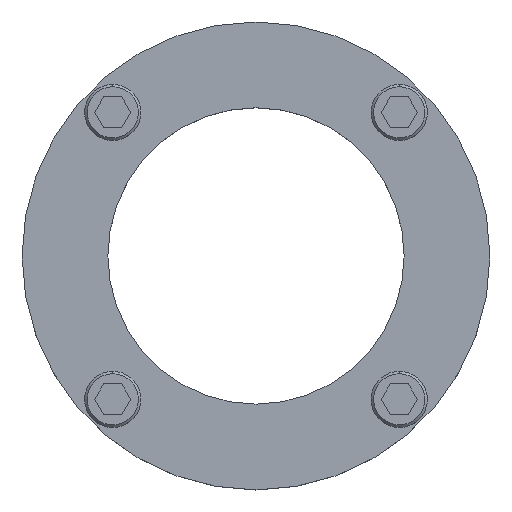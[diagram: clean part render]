
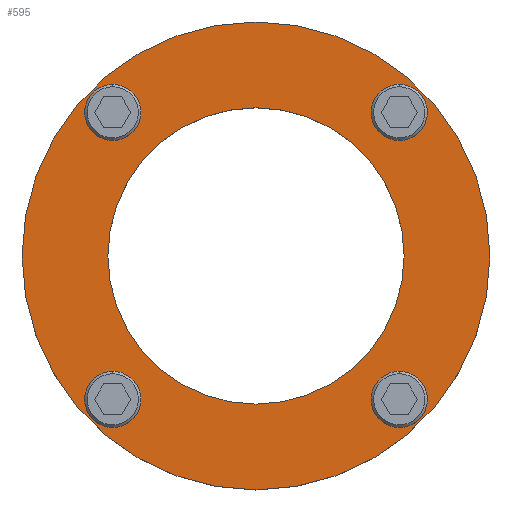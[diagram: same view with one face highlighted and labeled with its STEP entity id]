
A CAD part, top view. The second image highlights one B-rep face of the part: STEP entity #595.
In plain terms, the highlighted planar face has unit normal (0, 0, 1).
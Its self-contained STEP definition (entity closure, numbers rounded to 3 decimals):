
#595=ADVANCED_FACE('',(#779,#780,#781,#782,#783,#784),#725,.T.);
#725=PLANE('',#2192);
#779=FACE_BOUND('',#839,.T.);
#780=FACE_BOUND('',#840,.T.);
#781=FACE_BOUND('',#841,.T.);
#782=FACE_BOUND('',#842,.T.);
#783=FACE_BOUND('',#843,.T.);
#784=FACE_BOUND('',#844,.T.);
#839=EDGE_LOOP('',(#1007,#1008));
#840=EDGE_LOOP('',(#1009,#1010));
#841=EDGE_LOOP('',(#1011,#1012));
#842=EDGE_LOOP('',(#1013,#1014));
#843=EDGE_LOOP('',(#1015,#1016));
#844=EDGE_LOOP('',(#1017,#1018));
#1007=ORIENTED_EDGE('',*,*,#1759,.T.);
#1008=ORIENTED_EDGE('',*,*,#1760,.T.);
#1009=ORIENTED_EDGE('',*,*,#1761,.T.);
#1010=ORIENTED_EDGE('',*,*,#1762,.T.);
#1011=ORIENTED_EDGE('',*,*,#1763,.T.);
#1012=ORIENTED_EDGE('',*,*,#1764,.T.);
#1013=ORIENTED_EDGE('',*,*,#1765,.T.);
#1014=ORIENTED_EDGE('',*,*,#1766,.T.);
#1015=ORIENTED_EDGE('',*,*,#1767,.T.);
#1016=ORIENTED_EDGE('',*,*,#1768,.T.);
#1017=ORIENTED_EDGE('',*,*,#1769,.T.);
#1018=ORIENTED_EDGE('',*,*,#1770,.T.);
#1575=VERTEX_POINT('',#3130);
#1576=VERTEX_POINT('',#3131);
#1577=VERTEX_POINT('',#3134);
#1578=VERTEX_POINT('',#3135);
#1579=VERTEX_POINT('',#3138);
#1580=VERTEX_POINT('',#3139);
#1581=VERTEX_POINT('',#3142);
#1582=VERTEX_POINT('',#3143);
#1583=VERTEX_POINT('',#3146);
#1584=VERTEX_POINT('',#3147);
#1585=VERTEX_POINT('',#3150);
#1586=VERTEX_POINT('',#3151);
#1759=EDGE_CURVE('',#1575,#1576,#2043,.T.);
#1760=EDGE_CURVE('',#1576,#1575,#2044,.T.);
#1761=EDGE_CURVE('',#1577,#1578,#2045,.T.);
#1762=EDGE_CURVE('',#1578,#1577,#2046,.T.);
#1763=EDGE_CURVE('',#1579,#1580,#2047,.T.);
#1764=EDGE_CURVE('',#1580,#1579,#2048,.T.);
#1765=EDGE_CURVE('',#1581,#1582,#2049,.T.);
#1766=EDGE_CURVE('',#1582,#1581,#2050,.T.);
#1767=EDGE_CURVE('',#1583,#1584,#2051,.T.);
#1768=EDGE_CURVE('',#1584,#1583,#2052,.T.);
#1769=EDGE_CURVE('',#1585,#1586,#2053,.T.);
#1770=EDGE_CURVE('',#1586,#1585,#2054,.T.);
#2043=CIRCLE('',#2180,75.);
#2044=CIRCLE('',#2181,75.);
#2045=CIRCLE('',#2182,7.);
#2046=CIRCLE('',#2183,7.);
#2047=CIRCLE('',#2184,7.);
#2048=CIRCLE('',#2185,7.);
#2049=CIRCLE('',#2186,7.);
#2050=CIRCLE('',#2187,7.);
#2051=CIRCLE('',#2188,7.);
#2052=CIRCLE('',#2189,7.);
#2053=CIRCLE('',#2190,47.5);
#2054=CIRCLE('',#2191,47.5);
#2180=AXIS2_PLACEMENT_3D('',#3129,#2448,#2449);
#2181=AXIS2_PLACEMENT_3D('',#3132,#2450,#2451);
#2182=AXIS2_PLACEMENT_3D('',#3133,#2452,#2453);
#2183=AXIS2_PLACEMENT_3D('',#3136,#2454,#2455);
#2184=AXIS2_PLACEMENT_3D('',#3137,#2456,#2457);
#2185=AXIS2_PLACEMENT_3D('',#3140,#2458,#2459);
#2186=AXIS2_PLACEMENT_3D('',#3141,#2460,#2461);
#2187=AXIS2_PLACEMENT_3D('',#3144,#2462,#2463);
#2188=AXIS2_PLACEMENT_3D('',#3145,#2464,#2465);
#2189=AXIS2_PLACEMENT_3D('',#3148,#2466,#2467);
#2190=AXIS2_PLACEMENT_3D('',#3149,#2468,#2469);
#2191=AXIS2_PLACEMENT_3D('',#3152,#2470,#2471);
#2192=AXIS2_PLACEMENT_3D('',#3153,#2472,#2473);
#2448=DIRECTION('',(0.,0.,1.));
#2449=DIRECTION('',(1.,0.,0.));
#2450=DIRECTION('',(0.,0.,1.));
#2451=DIRECTION('',(-1.,0.,0.));
#2452=DIRECTION('',(0.,0.,-1.));
#2453=DIRECTION('',(-1.,0.,0.));
#2454=DIRECTION('',(0.,0.,-1.));
#2455=DIRECTION('',(1.,0.,0.));
#2456=DIRECTION('',(0.,0.,-1.));
#2457=DIRECTION('',(-1.,0.,0.));
#2458=DIRECTION('',(0.,0.,-1.));
#2459=DIRECTION('',(1.,0.,0.));
#2460=DIRECTION('',(0.,0.,-1.));
#2461=DIRECTION('',(-1.,0.,0.));
#2462=DIRECTION('',(0.,0.,-1.));
#2463=DIRECTION('',(1.,0.,0.));
#2464=DIRECTION('',(0.,0.,-1.));
#2465=DIRECTION('',(-1.,0.,0.));
#2466=DIRECTION('',(0.,0.,-1.));
#2467=DIRECTION('',(1.,0.,0.));
#2468=DIRECTION('',(0.,0.,-1.));
#2469=DIRECTION('',(-1.,0.,0.));
#2470=DIRECTION('',(0.,0.,-1.));
#2471=DIRECTION('',(1.,0.,0.));
#2472=DIRECTION('',(0.,0.,1.));
#2473=DIRECTION('',(0.,-1.,0.));
#3129=CARTESIAN_POINT('',(0.,0.,18.));
#3130=CARTESIAN_POINT('',(0.,75.,18.));
#3131=CARTESIAN_POINT('',(0.,-75.,18.));
#3132=CARTESIAN_POINT('',(0.,0.,18.));
#3133=CARTESIAN_POINT('',(45.924,-46.,18.));
#3134=CARTESIAN_POINT('',(45.924,-39.,18.));
#3135=CARTESIAN_POINT('',(45.924,-53.,18.));
#3136=CARTESIAN_POINT('',(45.924,-46.,18.));
#3137=CARTESIAN_POINT('',(45.924,46.,18.));
#3138=CARTESIAN_POINT('',(45.924,53.,18.));
#3139=CARTESIAN_POINT('',(45.924,39.,18.));
#3140=CARTESIAN_POINT('',(45.924,46.,18.));
#3141=CARTESIAN_POINT('',(-45.924,46.,18.));
#3142=CARTESIAN_POINT('',(-45.924,53.,18.));
#3143=CARTESIAN_POINT('',(-45.924,39.,18.));
#3144=CARTESIAN_POINT('',(-45.924,46.,18.));
#3145=CARTESIAN_POINT('',(-45.924,-46.,18.));
#3146=CARTESIAN_POINT('',(-45.924,-39.,18.));
#3147=CARTESIAN_POINT('',(-45.924,-53.,18.));
#3148=CARTESIAN_POINT('',(-45.924,-46.,18.));
#3149=CARTESIAN_POINT('',(0.,0.,18.));
#3150=CARTESIAN_POINT('',(0.,47.5,18.));
#3151=CARTESIAN_POINT('',(0.,-47.5,18.));
#3152=CARTESIAN_POINT('',(0.,0.,18.));
#3153=CARTESIAN_POINT('',(75.,0.,18.));
